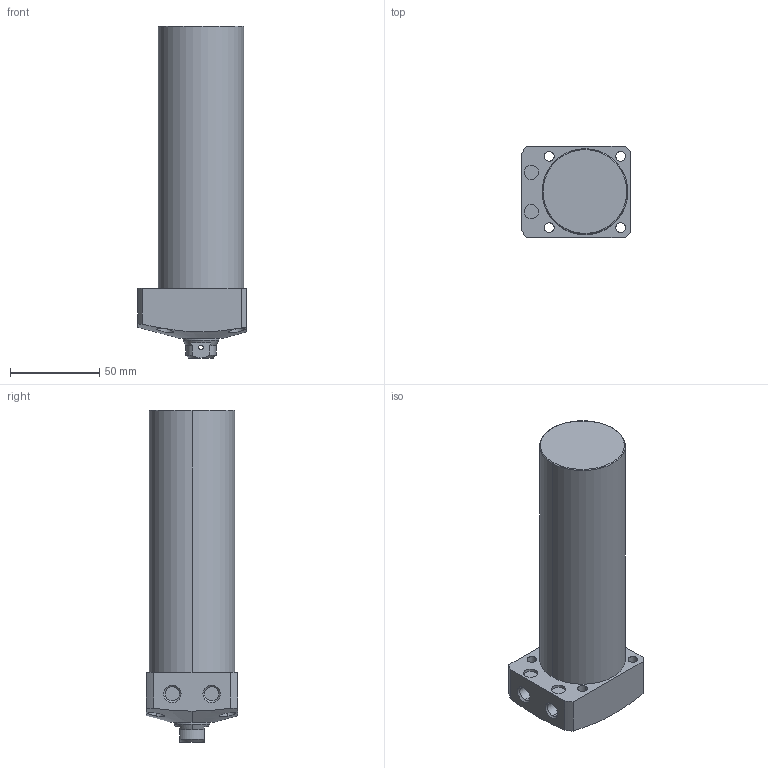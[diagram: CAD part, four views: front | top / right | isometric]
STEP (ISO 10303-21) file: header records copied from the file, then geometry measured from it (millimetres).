
FILE_DESCRIPTION (( 'STEP AP203' ), '1' );
FILE_NAME ('CLL-048CB-120.STEP', '2019-12-21T07:44:03', ( '' ), ( '' ), 'SwSTEP 2.0', 'SolidWorks 2015', '' );
FILE_SCHEMA (( 'CONFIG_CONTROL_DESIGN' ));
Length unit declared in the file: millimetre
Products named in the file (1): CLL-048CB-120
Bounding box: 61 x 51 x 186 mm (x, y, z)
Volume: 340169.4 mm3; surface area: 36982.1 mm2
Topology: 1 solids, 1 shells, 78 faces, 182 edges, 115 vertices
Faces by surface type: cylinder 39, plane 22, cone 15, torus 2
Entity records: 2751 total; most frequent: CARTESIAN_POINT 852, DIRECTION 394, ORIENTED_EDGE 360, EDGE_CURVE 180, AXIS2_PLACEMENT_3D 163, VERTEX_POINT 115, EDGE_LOOP 101, CIRCLE 84
